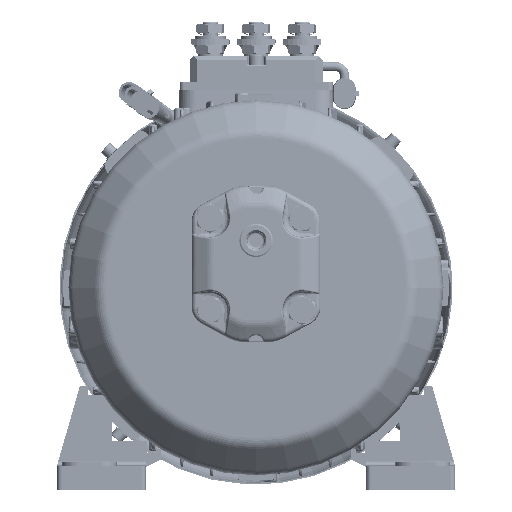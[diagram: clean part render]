
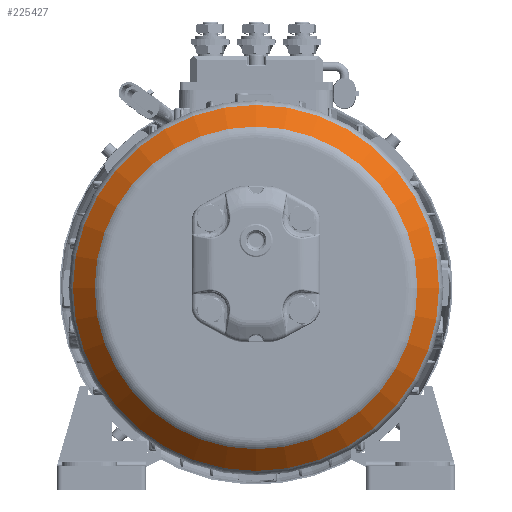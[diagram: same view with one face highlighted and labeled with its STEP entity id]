
A CAD part, left-side view. The second image highlights one B-rep face of the part: STEP entity #225427.
In plain terms, the highlighted conical face has half-angle 45 degrees and reference radius 112.5 mm.
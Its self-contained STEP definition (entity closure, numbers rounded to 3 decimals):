
#8232=CONICAL_SURFACE('',#245620,112.5,0.785);
#15628=CIRCLE('',#245618,119.571);
#15629=CIRCLE('',#245619,119.571);
#15630=CIRCLE('',#245621,105.429);
#15631=CIRCLE('',#245622,105.429);
#32572=FACE_OUTER_BOUND('',#45660,.T.);
#45660=EDGE_LOOP('',(#178898,#178899,#178900,#178901,#178902,#178903));
#58289=LINE('',#516137,#73538);
#73538=VECTOR('',#292614,112.5);
#97400=VERTEX_POINT('',#516130);
#97401=VERTEX_POINT('',#516132);
#97402=VERTEX_POINT('',#516136);
#97403=VERTEX_POINT('',#516138);
#125689=EDGE_CURVE('',#97400,#97401,#15628,.T.);
#125690=EDGE_CURVE('',#97401,#97400,#15629,.T.);
#125691=EDGE_CURVE('',#97401,#97402,#58289,.T.);
#125692=EDGE_CURVE('',#97403,#97402,#15630,.T.);
#125693=EDGE_CURVE('',#97402,#97403,#15631,.T.);
#178898=ORIENTED_EDGE('',*,*,#125690,.F.);
#178899=ORIENTED_EDGE('',*,*,#125691,.T.);
#178900=ORIENTED_EDGE('',*,*,#125692,.F.);
#178901=ORIENTED_EDGE('',*,*,#125693,.F.);
#178902=ORIENTED_EDGE('',*,*,#125691,.F.);
#178903=ORIENTED_EDGE('',*,*,#125689,.F.);
#225427=ADVANCED_FACE('',(#32572),#8232,.T.);
#245618=AXIS2_PLACEMENT_3D('',#516133,#292608,#292609);
#245619=AXIS2_PLACEMENT_3D('',#516134,#292610,#292611);
#245620=AXIS2_PLACEMENT_3D('',#516135,#292612,#292613);
#245621=AXIS2_PLACEMENT_3D('',#516139,#292615,#292616);
#245622=AXIS2_PLACEMENT_3D('',#516140,#292617,#292618);
#292608=DIRECTION('center_axis',(1.,0.,0.));
#292609=DIRECTION('ref_axis',(0.,-1.,0.));
#292610=DIRECTION('center_axis',(1.,0.,0.));
#292611=DIRECTION('ref_axis',(0.,-1.,0.));
#292612=DIRECTION('center_axis',(1.,0.,0.));
#292613=DIRECTION('ref_axis',(0.,1.,0.));
#292614=DIRECTION('',(-0.707,0.707,0.));
#292615=DIRECTION('center_axis',(-1.,0.,0.));
#292616=DIRECTION('ref_axis',(0.,-1.,0.));
#292617=DIRECTION('center_axis',(-1.,0.,0.));
#292618=DIRECTION('ref_axis',(0.,-1.,0.));
#516130=CARTESIAN_POINT('',(-286.929,0.,119.571));
#516132=CARTESIAN_POINT('',(-286.929,-119.571,0.));
#516133=CARTESIAN_POINT('Origin',(-286.929,0.,
0.));
#516134=CARTESIAN_POINT('Origin',(-286.929,0.,
0.));
#516135=CARTESIAN_POINT('Origin',(-294.,0.,0.));
#516136=CARTESIAN_POINT('',(-301.071,-105.429,0.));
#516137=CARTESIAN_POINT('',(-294.,-112.5,0.));
#516138=CARTESIAN_POINT('',(-301.071,0.,105.429));
#516139=CARTESIAN_POINT('Origin',(-301.071,0.,
0.));
#516140=CARTESIAN_POINT('Origin',(-301.071,0.,
0.));
